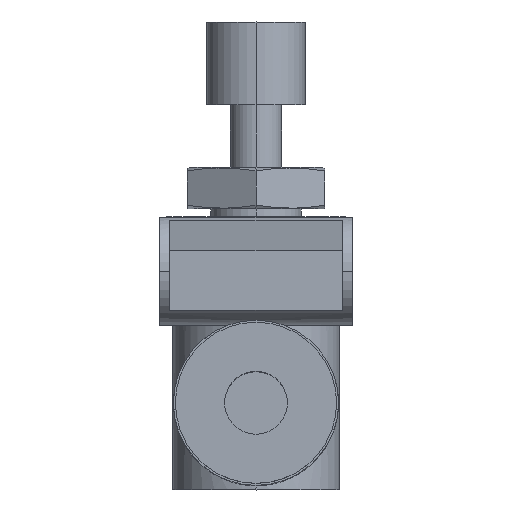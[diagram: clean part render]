
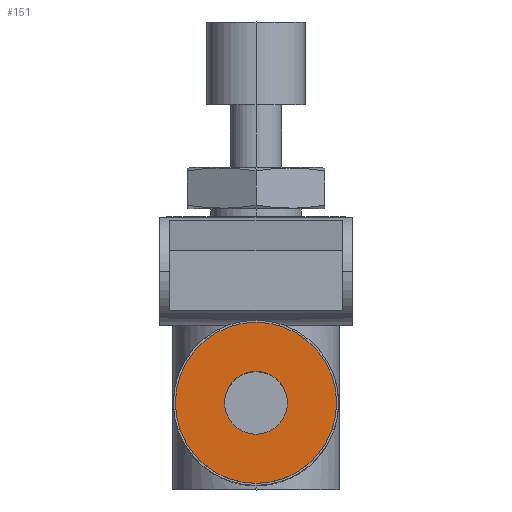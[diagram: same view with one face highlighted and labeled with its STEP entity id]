
A CAD part, top view. The second image highlights one B-rep face of the part: STEP entity #151.
In plain terms, the highlighted planar face has unit normal (0, 0, 1).
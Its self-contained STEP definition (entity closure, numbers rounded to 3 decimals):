
#151 = ADVANCED_FACE( '', ( #323, #324 ), #325, .T. );
#323 = FACE_BOUND( '', #498, .T. );
#324 = FACE_OUTER_BOUND( '', #499, .T. );
#325 = PLANE( '', #500 );
#498 = EDGE_LOOP( '', ( #1115, #1116 ) );
#499 = EDGE_LOOP( '', ( #1117, #1118 ) );
#500 = AXIS2_PLACEMENT_3D( '', #1119, #1120, #1121 );
#1115 = ORIENTED_EDGE( '', *, *, #1328, .F. );
#1116 = ORIENTED_EDGE( '', *, *, #1137, .F. );
#1117 = ORIENTED_EDGE( '', *, *, #1141, .T. );
#1118 = ORIENTED_EDGE( '', *, *, #1327, .T. );
#1119 = CARTESIAN_POINT( '', ( 0., 2.85, 18. ) );
#1120 = DIRECTION( '', ( 0., 0., 1. ) );
#1121 = DIRECTION( '', ( 0., 1., 0. ) );
#1137 = EDGE_CURVE( '', #1335, #1331, #1337, .T. );
#1141 = EDGE_CURVE( '', #1339, #1343, #1345, .T. );
#1327 = EDGE_CURVE( '', #1343, #1339, #1651, .T. );
#1328 = EDGE_CURVE( '', #1331, #1335, #1652, .T. );
#1331 = VERTEX_POINT( '', #1655 );
#1335 = VERTEX_POINT( '', #1660 );
#1337 = CIRCLE( '', #1663, 1.6 );
#1339 = VERTEX_POINT( '', #1665 );
#1343 = VERTEX_POINT( '', #1670 );
#1345 = CIRCLE( '', #1673, 4.1 );
#1651 = CIRCLE( '', #3047, 4.1 );
#1652 = CIRCLE( '', #3048, 1.6 );
#1655 = CARTESIAN_POINT( '', ( 0., 1.6, 18. ) );
#1660 = CARTESIAN_POINT( '', ( 0., -1.6, 18. ) );
#1663 = AXIS2_PLACEMENT_3D( '', #3055, #3056, #3057 );
#1665 = CARTESIAN_POINT( '', ( 0., 4.1, 18. ) );
#1670 = CARTESIAN_POINT( '', ( 0., -4.1, 18. ) );
#1673 = AXIS2_PLACEMENT_3D( '', #3063, #3064, #3065 );
#3047 = AXIS2_PLACEMENT_3D( '', #3349, #3350, #3351 );
#3048 = AXIS2_PLACEMENT_3D( '', #3352, #3353, #3354 );
#3055 = CARTESIAN_POINT( '', ( 0., 0., 18. ) );
#3056 = DIRECTION( '', ( 0., 0., 1. ) );
#3057 = DIRECTION( '', ( 0., 1., 0. ) );
#3063 = CARTESIAN_POINT( '', ( 0., 0., 18. ) );
#3064 = DIRECTION( '', ( 0., 0., 1. ) );
#3065 = DIRECTION( '', ( 0., 1., 0. ) );
#3349 = CARTESIAN_POINT( '', ( 0., 0., 18. ) );
#3350 = DIRECTION( '', ( 0., 0., 1. ) );
#3351 = DIRECTION( '', ( 0., 1., 0. ) );
#3352 = CARTESIAN_POINT( '', ( 0., 0., 18. ) );
#3353 = DIRECTION( '', ( 0., 0., 1. ) );
#3354 = DIRECTION( '', ( 0., 1., 0. ) );
